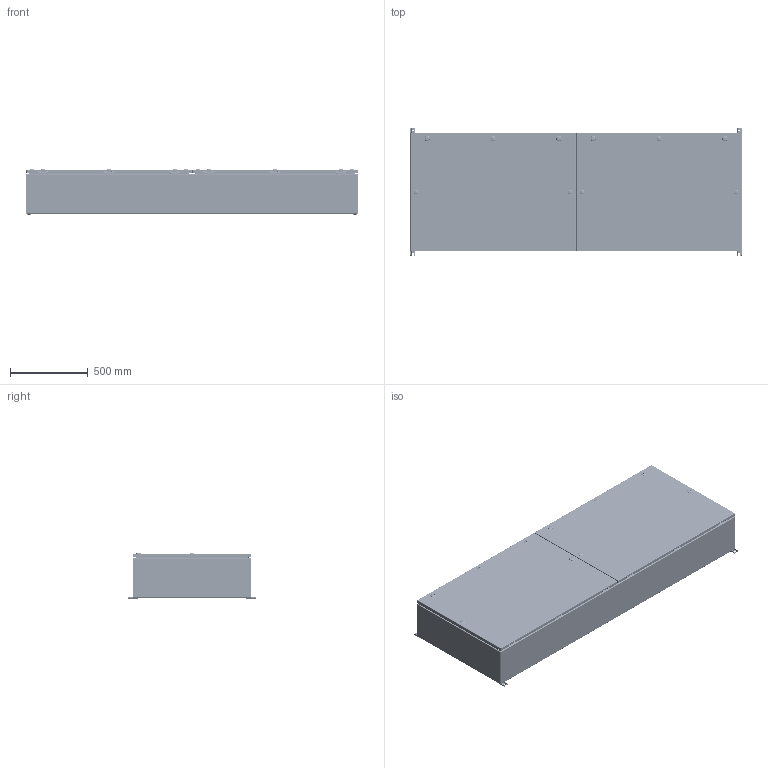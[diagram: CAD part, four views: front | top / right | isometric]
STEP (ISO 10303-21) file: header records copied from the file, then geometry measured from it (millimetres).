
FILE_DESCRIPTION(/* description */ ('1412BTSSCU 800A - 4 Wires x 84" Assembly'),/* implementation_level */ '2;1');
FILE_NAME(/* name */ 'C:\Vault_Workspace\Inventor_Dwg\BoxCad\Result\1412BTSSCU07804DT\e-mail\3D\1412BTSSCU07804DT.stp',/* time_stamp */ '2022-11-03T16:05:52-04:00',/* author */ ('BoxCad'),/* organization */ (''),/* preprocessor_version */ 'ST-DEVELOPER v18.1',/* originating_system */ 'Autodesk Inventor 2020',/* authorisation */ '');
FILE_SCHEMA (('AUTOMOTIVE_DESIGN { 1 0 10303 214 3 1 1 }'));
Products named in the file (67): 1412BTSSCU07804DT; 1412BTSSCU07804DTB; 1412BTSSCU07804DTB-P; 1412BTSSCU07804DTE-P; STK-Q-16020; iLogic_STK-G-00701; STK-Q-00260; STK-Q-07220-1; STK-Q-07220-A; STK-Q-07220-B; 1412BTSSCU07804DTC; 1412BTSSCU07804DTC-P; 1412BTSSCU07804DTF-P; 1412BTSSCU07804DTG; STK-Q-16095; STK-K-09850-1; STK-Q-33019; STK-Q-90111; STK-Q-40096; STK-Q-63412; STK-S-00100; STK-A-880SCQ4-SLSS6-1; STK-A-880SCQ4-SLSS6-2; STK-A-880SCQ4-SLSS6-3; STK-A-880SCQ4-SLSS6-4; STK-A-880SCQ4-SLSS6-5; STK-A-880SCQ4-SLSS6-6; STK-A-880SCQ4-SLSS6-7; STK-A-880SCQ4-SLSS6-8; STK-A-880SCQ4-SLSS6-9; STK-A-880SCQ4-SLSS6-10; STK-Q-70621; STK-Q-70631; STK-Q-78145; STK-Q-03200; STK-Q-78125; STK-Q-90390; STK-Q-78160; STK-Q-78141; 1412BTSSCU07804DTIP1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
Assembly tree (230 placements, depth 4):
  1412BTSSCU07804DT
    1412BTSSCU07804DTB
      1412BTSSCU07804DTB-P
      1412BTSSCU07804DTE-P
      STK-Q-16095  x2
      STK-Q-16020  x10
      iLogic_STK-G-00701
      STK-Q-00260  x10
      STK-Q-07220-1  x10
        STK-Q-07220-A
        STK-Q-07220-B
      STK-S-00100
    1412BTSSCU07804DTC
      1412BTSSCU07804DTC-P
      1412BTSSCU07804DTF-P
      1412BTSSCU07804DTG  x2
      STK-Q-16095  x2
      STK-K-09850-1  x6
        STK-Q-33019
        STK-Q-90111
        STK-Q-40096
        STK-Q-63412
      STK-S-00100
      STK-A-880SCQ4-SLSS6-1
        STK-Q-70621
        STK-Q-70631
        STK-Q-78145
        STK-Q-03200
        STK-Q-78125
        STK-Q-90390
        STK-Q-78160
        STK-Q-78141
      STK-A-880SCQ4-SLSS6-2
        STK-Q-70621
        STK-Q-70631
        STK-Q-78145
        STK-Q-03200
        STK-Q-78125
        STK-Q-90390
        STK-Q-78160
        STK-Q-78141
      STK-A-880SCQ4-SLSS6-3
        STK-Q-70621
        STK-Q-70631
        STK-Q-78145
        STK-Q-03200
        STK-Q-78125
        STK-Q-90390
        STK-Q-78160
        STK-Q-78141
      STK-A-880SCQ4-SLSS6-4
        STK-Q-70621
        STK-Q-70631
        STK-Q-78145
        STK-Q-03200
        STK-Q-78125
        STK-Q-90390
        STK-Q-78160
        STK-Q-78141
      STK-A-880SCQ4-SLSS6-5
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Bounding box: 2133.6 x 819.15 x 294.19 mm (x, y, z)
Volume: 15167932.5 mm3; surface area: 13926741.4 mm2
Topology: 314 solids, 314 shells, 44668 faces, 117456 edges, 73520 vertices
Faces by surface type: plane 17050, bspline 12786, cylinder 10408, torus 2942, sphere 922, cone 560
Full cylindrical faces by diameter (mm): 0.75 x14, 0.762 x14, 1 x24, 1.1 x24, 3.2 x12, 4.5 x48, 4.85 x48, 4.917 x6, 4.95 x12, 5 x10, 5.1 x140, 5.105 x40, 5.9 x266, 6.65 x12, 6.655 x10, 6.8 x10, 6.85 x80, 7.366 x14, 7.8 x492, 8 x56, 8.25 x24, 8.6 x12, 9.5 x10, 9.6 x10, 9.7 x48, 9.906 x4, 10 x16, 10.312 x2, 11.5 x24, 12 x18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
Entity records: 234087 total; most frequent: CARTESIAN_POINT 91297, ORIENTED_EDGE 31612, DIRECTION 25213, EDGE_CURVE 15806, VERTEX_POINT 10112, AXIS2_PLACEMENT_3D 8632, LINE 7949, VECTOR 7949
